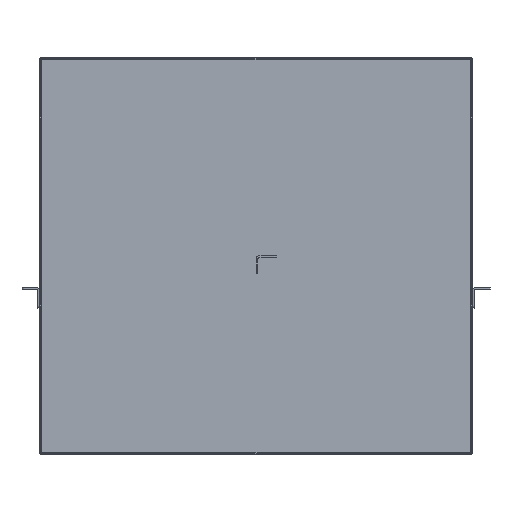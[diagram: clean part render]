
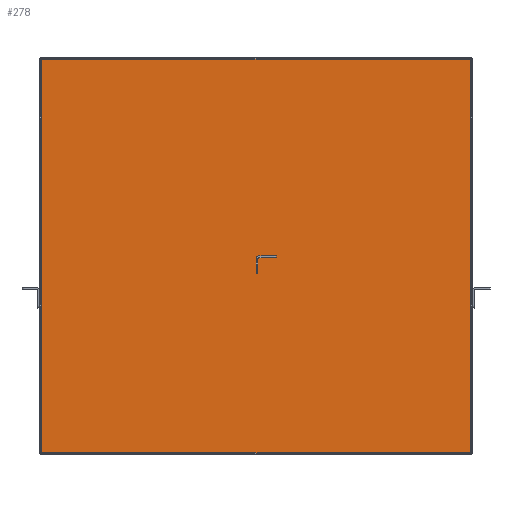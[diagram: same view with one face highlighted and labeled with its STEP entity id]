
A CAD part, top view. The second image highlights one B-rep face of the part: STEP entity #278.
In plain terms, the highlighted planar face has unit normal (0, 0, 1).
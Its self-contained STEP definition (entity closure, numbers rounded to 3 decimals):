
#278 = ADVANCED_FACE( '', ( #553 ), #554, .T. );
#553 = FACE_OUTER_BOUND( '', #1123, .T. );
#554 = PLANE( '', #1124 );
#1123 = EDGE_LOOP( '', ( #1804, #1805, #1806, #1807 ) );
#1124 = AXIS2_PLACEMENT_3D( '', #1808, #1809, #1810 );
#1804 = ORIENTED_EDGE( '', *, *, #2056, .F. );
#1805 = ORIENTED_EDGE( '', *, *, #2259, .T. );
#1806 = ORIENTED_EDGE( '', *, *, #2260, .F. );
#1807 = ORIENTED_EDGE( '', *, *, #2261, .T. );
#1808 = CARTESIAN_POINT( '', ( -269.875, -247.65, 1.448 ) );
#1809 = DIRECTION( '', ( 0., 0., 1. ) );
#1810 = DIRECTION( '', ( 1., 0., 0. ) );
#2056 = EDGE_CURVE( '', #2308, #2436, #2437, .T. );
#2259 = EDGE_CURVE( '', #2308, #2326, #2719, .T. );
#2260 = EDGE_CURVE( '', #2697, #2326, #2720, .T. );
#2261 = EDGE_CURVE( '', #2697, #2436, #2721, .T. );
#2308 = VERTEX_POINT( '', #2785 );
#2326 = VERTEX_POINT( '', #2817 );
#2436 = VERTEX_POINT( '', #3054 );
#2437 = LINE( '', #3055, #3056 );
#2697 = VERTEX_POINT( '', #3606 );
#2719 = LINE( '', #3638, #3639 );
#2720 = LINE( '', #3640, #3641 );
#2721 = LINE( '', #3642, #3643 );
#2785 = CARTESIAN_POINT( '', ( 267.691, 245.466, 1.448 ) );
#2817 = CARTESIAN_POINT( '', ( -267.691, 245.466, 1.448 ) );
#3054 = CARTESIAN_POINT( '', ( 267.691, -245.466, 1.448 ) );
#3055 = CARTESIAN_POINT( '', ( 267.691, 247.65, 1.448 ) );
#3056 = VECTOR( '', #3758, 1000. );
#3606 = CARTESIAN_POINT( '', ( -267.691, -245.466, 1.448 ) );
#3638 = CARTESIAN_POINT( '', ( -267.689, 245.466, 1.448 ) );
#3639 = VECTOR( '', #3954, 1000. );
#3640 = CARTESIAN_POINT( '', ( -267.691, -247.65, 1.448 ) );
#3641 = VECTOR( '', #3955, 1000. );
#3642 = CARTESIAN_POINT( '', ( 267.689, -245.466, 1.448 ) );
#3643 = VECTOR( '', #3956, 1000. );
#3758 = DIRECTION( '', ( 0., -1., 0. ) );
#3954 = DIRECTION( '', ( -1., 0., 0. ) );
#3955 = DIRECTION( '', ( 0., 1., 0. ) );
#3956 = DIRECTION( '', ( 1., 0., 0. ) );
